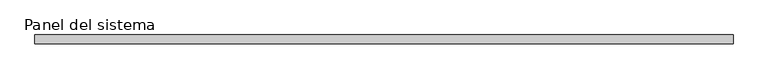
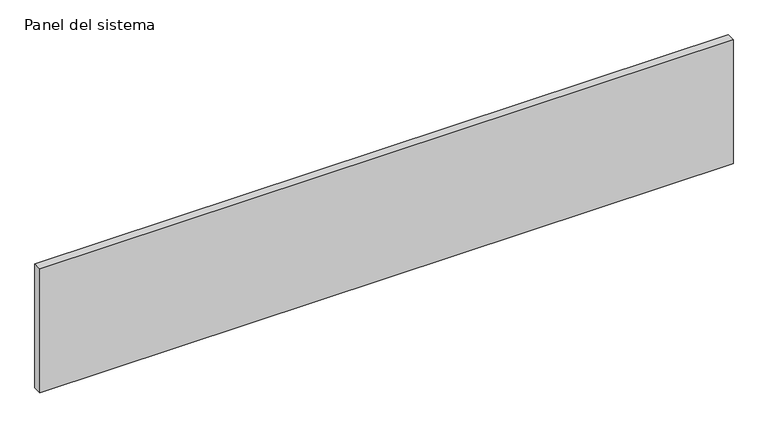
"""IFC4 building model written with IfcOpenShell, lengths in millimetres: plate geometry, Panel del sistema : HIANSA - CHAPA PERFILADA CUBIERTA - MT53MA8 Hor."""

import ifcopenshell
import ifcopenshell.guid

model = None  # the IFC model being written
_history = None  # IfcOwnerHistory: only IFC2X3 demands one
_inside = {}  # id of a spatial element -> (the spatial element, [elements in it])
_under = {}  # id of a project, library or spatial element -> (it, [spatial elements below it])
_declared = {}  # id of a project -> (the project, [libraries it declares])
_typed = {}  # id of a type object -> (the type object, [elements of that type])
_made_of = {}  # id of a material, layer set ... -> (it, [elements and type objects made of it])


def new_model(schema):
    """Start an empty IFC model of exactly this schema.

    Asked for "IFC4X3", IfcOpenShell would pick the latest addendum, in which some entities
    have other attributes; the version numbers below select the first issue.
    IFC2X3 requires an IfcOwnerHistory on every rooted entity: one is made here for all.
    """
    global model, _history
    if schema == "IFC4X3":
        model = ifcopenshell.file(schema_version=(4, 3, 0, 0))
    else:
        model = ifcopenshell.file(schema=schema)
    _inside.clear()
    _under.clear()
    _declared.clear()
    _typed.clear()
    _made_of.clear()
    _history = None
    if model.schema == "IFC2X3":
        org = make("IfcOrganization", Name="unknown")
        user = make(
            "IfcPersonAndOrganization",
            ThePerson=make("IfcPerson", FamilyName="unknown"),
            TheOrganization=org,
        )
        app = make(
            "IfcApplication",
            ApplicationDeveloper=org,
            Version="unknown",
            ApplicationFullName="unknown",
            ApplicationIdentifier="unknown",
        )
        _history = make(
            "IfcOwnerHistory",
            OwningUser=user,
            OwningApplication=app,
            ChangeAction="ADDED",
            CreationDate=0,
        )
    return model


def make(cls, **values):
    """One entity of the class cls with the attributes given. An attribute that is None is left unset."""
    return model.create_entity(
        cls, **{name: value for name, value in values.items() if value is not None}
    )


def rooted(cls, **values):
    """An entity with a GlobalId (a new one), such as an element, a storey or a relation."""
    return make(cls, GlobalId=ifcopenshell.guid.new(), OwnerHistory=_history, **values)


def si_unit(unit_type, name, prefix=None):
    """IfcSIUnit, for example si_unit("LENGTHUNIT", "METRE", prefix="MILLI")."""
    return make("IfcSIUnit", UnitType=unit_type, Prefix=prefix, Name=name)


def assignment(units):
    """IfcUnitAssignment: the units of a project."""
    return None if units is None else make("IfcUnitAssignment", Units=units)


def point(xyz):
    """IfcCartesianPoint."""
    return None if xyz is None else make("IfcCartesianPoint", Coordinates=xyz)


def direction(xyz):
    """IfcDirection."""
    return None if xyz is None else make("IfcDirection", DirectionRatios=xyz)


def frame(location, z_axis=None, x_axis=None):
    """IfcAxis2Placement3D, a coordinate frame: its origin and axes. An axis left out is left unset."""
    return make(
        "IfcAxis2Placement3D",
        Location=point(location),
        Axis=direction(z_axis),
        RefDirection=direction(x_axis),
    )


def origin():
    """The frame at (0, 0, 0) with its axes left unset."""
    return frame((0.0, 0.0, 0.0))


def origin_with_axes():
    """The frame at (0, 0, 0) with the z axis (0, 0, 1) and the x axis (1, 0, 0) written out."""
    return frame((0.0, 0.0, 0.0), z_axis=(0.0, 0.0, 1.0), x_axis=(1.0, 0.0, 0.0))


def place(relative_to, where):
    """IfcLocalPlacement: puts the frame where relative to a parent placement (None: the world)."""
    return make(
        "IfcLocalPlacement", PlacementRelTo=relative_to, RelativePlacement=where
    )


def context(
    kind, dimensions, precision=None, world=None, true_north=None, identifier=None
):
    """IfcGeometricRepresentationContext, for example the 3D "Model" context."""
    return make(
        "IfcGeometricRepresentationContext",
        ContextIdentifier=identifier,
        ContextType=kind,
        CoordinateSpaceDimension=dimensions,
        Precision=precision,
        WorldCoordinateSystem=world,
        TrueNorth=true_north,
    )


def project(units=None, contexts=None):
    """IfcProject with its units and contexts."""
    return rooted(
        "IfcProject",
        Name="project",
        RepresentationContexts=contexts,
        UnitsInContext=assignment(units),
    )


def spatial(cls, under=None, at=None, **own):
    """A site, building, storey or space (cls), placed at a placement, below another one or the project."""
    s = rooted(cls, ObjectPlacement=at, **own)
    if under is not None:
        _under.setdefault(under.id(), (under, []))[1].append(s)
    return s


def polyline(points):
    """IfcPolyline through the points."""
    return make("IfcPolyline", Points=[point(p) for p in points])


def outline(outer, holes=None, kind="AREA"):
    """IfcArbitraryClosedProfileDef: a profile drawn as a closed curve; with holes, ...WithVoids."""
    if holes is None:
        return make("IfcArbitraryClosedProfileDef", ProfileType=kind, OuterCurve=outer)
    return make(
        "IfcArbitraryProfileDefWithVoids",
        ProfileType=kind,
        OuterCurve=outer,
        InnerCurves=holes,
    )


def extrude(swept, where, along, depth):
    """IfcExtrudedAreaSolid: the profile swept, set in the frame where, extruded along a direction by depth."""
    return make(
        "IfcExtrudedAreaSolid",
        SweptArea=swept,
        Position=where,
        ExtrudedDirection=direction(along),
        Depth=depth,
    )


def shape(context_of_items, identifier, shape_type, items):
    """IfcShapeRepresentation: the items that make up one representation, for example the "Body"."""
    return make(
        "IfcShapeRepresentation",
        ContextOfItems=context_of_items,
        RepresentationIdentifier=identifier,
        RepresentationType=shape_type,
        Items=items,
    )


def source(mapping_origin, context_of_items, identifier, shape_type, items):
    """IfcRepresentationMap: a shape defined once, which mapped items show again and again."""
    return make(
        "IfcRepresentationMap",
        MappingOrigin=mapping_origin,
        MappedRepresentation=shape(context_of_items, identifier, shape_type, items),
    )


def transform(
    local_origin,
    x_axis=None,
    y_axis=None,
    z_axis=None,
    scale=None,
    scale2=None,
    scale3=None,
    uniform=True,
):
    """IfcCartesianTransformationOperator3D, or its non-uniform kind. x_axis, y_axis, z_axis: its Axis1, 2, 3."""
    if uniform:
        return make(
            "IfcCartesianTransformationOperator3D",
            Axis1=direction(x_axis),
            Axis2=direction(y_axis),
            LocalOrigin=point(local_origin),
            Scale=scale,
            Axis3=direction(z_axis),
        )
    return make(
        "IfcCartesianTransformationOperator3DnonUniform",
        Axis1=direction(x_axis),
        Axis2=direction(y_axis),
        LocalOrigin=point(local_origin),
        Scale=scale,
        Axis3=direction(z_axis),
        Scale2=scale2,
        Scale3=scale3,
    )


def mapped(mapping_source, mapping_target):
    """IfcMappedItem: shows the shape of a source again, moved by a transform."""
    return make(
        "IfcMappedItem", MappingSource=mapping_source, MappingTarget=mapping_target
    )


def made_of(thing, what):
    """Note that an element or type object is made of a material, layer set ...; save() writes the relation."""
    if what is not None:
        _made_of.setdefault(what.id(), (what, []))[1].append(thing)
    return thing


def element(
    cls,
    number,
    at=None,
    inside=None,
    cuts=None,
    type_object=None,
    material=None,
    context=None,
    identifier="Body",
    shape_type=None,
    held_by="IfcProductDefinitionShape",
    body=None,
    shapes=None,
    **own,
):
    """One element of the class cls, such as IfcWall. Its Tag is "e" and its number.

    at: its placement. inside: the storey or other place that contains it. cuts: it is an
    opening in that element (IfcRelVoidsElement). A single representation is given by context,
    identifier, shape_type and body (its items); several are given by shapes. held_by: the class
    of the entity that holds the representations. save() writes the other relations.
    """
    e = rooted(cls, Tag="e%d" % number, ObjectPlacement=at, **own)
    if body is not None:
        shapes = [shape(context, identifier, shape_type, body)]
    if shapes is not None:
        e.Representation = make(held_by, Representations=shapes)
    if inside is not None:
        _inside.setdefault(inside.id(), (inside, []))[1].append(e)
    if cuts is not None:
        rooted(
            "IfcRelVoidsElement", RelatingBuildingElement=cuts, RelatedOpeningElement=e
        )
    if type_object is not None:
        _typed.setdefault(type_object.id(), (type_object, []))[1].append(e)
    return made_of(e, material)


def aggregate(whole, parts):
    """IfcRelAggregates: a whole, such as a stair, and the parts it consists of."""
    return rooted("IfcRelAggregates", RelatingObject=whole, RelatedObjects=parts)


def save(model, path):
    """Write the relations noted so far, then the file.

    IfcRelAggregates (storeys below a building ...), IfcRelContainedInSpatialStructure (elements
    in a storey), IfcRelDefinesByType, IfcRelAssociatesMaterial and IfcRelDeclares: one each for
    every whole, place, type object, material and project.
    """
    for whole, parts in _under.values():
        aggregate(whole, parts)
    for where, things in _inside.values():
        rooted(
            "IfcRelContainedInSpatialStructure",
            RelatedElements=things,
            RelatingStructure=where,
        )
    for kind, things in _typed.values():
        rooted("IfcRelDefinesByType", RelatedObjects=things, RelatingType=kind)
    for what, things in _made_of.values():
        rooted("IfcRelAssociatesMaterial", RelatedObjects=things, RelatingMaterial=what)
    for by, libraries in _declared.values():
        rooted("IfcRelDeclares", RelatingContext=by, RelatedDefinitions=libraries)
    model.write(path)


def panel_del_sistema_c1a5f5a9(model_context):
    return source(origin(), model_context, "Body", "SweptSolid", [
        extrude(outline(polyline([(2128.0, -52.5), (-2128.0, -52.5), (-2128.0, 0.5), (2128.0, 0.5), (2128.0, -52.5)])), origin_with_axes(), (0.0, 0.0, 1.0), 804.0),
    ])


if __name__ == "__main__":
    model = new_model("IFC4")
    model_context = context("Model", 3, world=origin())
    ifc_project = project(units=[si_unit("LENGTHUNIT", "METRE", prefix="MILLI")], contexts=[model_context])
    site = spatial("IfcSite", under=ifc_project)
    building = spatial("IfcBuilding", under=site)
    placement = place(None, origin())
    panel_del_sistema_shape = panel_del_sistema_c1a5f5a9(model_context)
    element("IfcPlate", 1, ObjectType="Panel del sistema : HIANSA - CHAPA PERFILADA CUBIERTA - MT53MA8 Hor", at=placement, inside=building, context=model_context, shape_type="MappedRepresentation", body=[
        mapped(panel_del_sistema_shape, transform((0.0, 0.0, 0.0), x_axis=(1.0, 0.0, 0.0), y_axis=(0.0, 1.0, 0.0), z_axis=(0.0, 0.0, 1.0))),
    ])
    save(model, "model.ifc")
